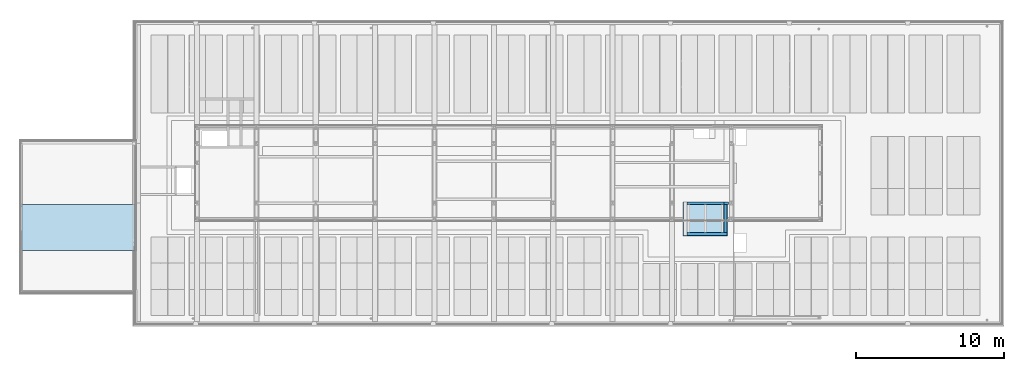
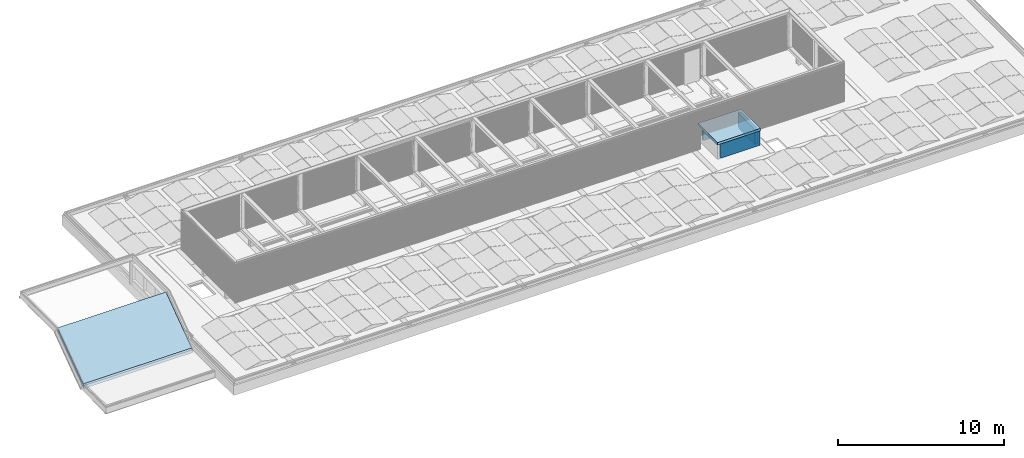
# One storey, part 16 of 63: 3 roofs, 3 walls.
"""IFC2X3 building model written with IfcOpenShell, lengths in millimetres."""

from ifc_helpers import new_model, entity, si_unit, converted_unit, derived_unit, money_unit, direction, frame, origin_with_axes, place, context, subcontext, project, spatial, faceted_brep, material, type_object, element, save


model = new_model("IFC2X3")

# Units and contexts
model_context = context("Model", 3, precision=0.01, world=origin_with_axes(), true_north=direction((0.0, 1.0)))
body_context = subcontext(model_context, "Body", "Model", "MODEL_VIEW")
ifc_project = project(units=[si_unit("LENGTHUNIT", "METRE", prefix="MILLI"), si_unit("AREAUNIT", "SQUARE_METRE"), si_unit("VOLUMEUNIT", "CUBIC_METRE"), converted_unit("PLANEANGLEUNIT", "DEGREE", entity("IfcPlaneAngleMeasure", 0.0174532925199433), si_unit("PLANEANGLEUNIT", "RADIAN"), dimensions=[0, 0, 0, 0, 0, 0, 0]), money_unit("EUR"), converted_unit("TIMEUNIT", "Year", entity("IfcTimeMeasure", 31557600.0), si_unit("TIMEUNIT", "SECOND"), dimensions=[0, 0, 1, 0, 0, 0, 0]), si_unit("MASSUNIT", "GRAM", prefix="KILO"), si_unit("THERMODYNAMICTEMPERATUREUNIT", "DEGREE_CELSIUS"), si_unit("LUMINOUSINTENSITYUNIT", "LUMEN"), si_unit("ENERGYUNIT", "JOULE", prefix="MEGA"), derived_unit("THERMALCONDUCTANCEUNIT", [(si_unit("POWERUNIT", "WATT"), 1), (si_unit("LENGTHUNIT", "METRE"), -1), (si_unit("THERMODYNAMICTEMPERATUREUNIT", "KELVIN"), -1)]), derived_unit("SPECIFICHEATCAPACITYUNIT", [(si_unit("ENERGYUNIT", "JOULE"), 1), (si_unit("MASSUNIT", "GRAM", prefix="KILO"), -1), (si_unit("THERMODYNAMICTEMPERATUREUNIT", "KELVIN"), -1)]), derived_unit("MASSDENSITYUNIT", [(si_unit("MASSUNIT", "GRAM", prefix="KILO"), 1), (si_unit("VOLUMEUNIT", "CUBIC_METRE"), -1)])], contexts=[model_context])

# Site, building, storey
site_placement = place(None, origin_with_axes())
site = spatial("IfcSite", under=ifc_project, at=site_placement, Name="<site naam>", CompositionType="ELEMENT")
building_placement = place(site_placement, origin_with_axes())
building = spatial("IfcBuilding", under=site, at=building_placement, Name="<Naam gebouw>", CompositionType="ELEMENT")
storey_placement = place(building_placement, frame((0.0, 0.0, 12770.0), z_axis=(0.0, 0.0, 1.0), x_axis=(1.0, 0.0, 0.0)))
storey = spatial("IfcBuildingStorey", under=building, at=storey_placement, Name="04 4e verdieping", CompositionType="ELEMENT", Elevation=12770.0)

# Walls
ifc_material_1 = material(Name="kalkzandsteen")
wall_type_1 = type_object("IfcWallType", Name="kalkzandsteen 150", PredefinedType="NOTDEFINED")
wall_1_placement = place(storey_placement, frame((51500.00000000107, 7904.999998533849, -70.00000000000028), z_axis=(0.0, 0.0, 1.0), x_axis=(-1.0, 0.0, 0.0)))
element("IfcWall", 1, at=wall_1_placement, inside=storey, type_object=wall_type_1, material=ifc_material_1, Name="22_Binnenwand_kalkzandsteen", context=body_context, shape_type="Brep", body=[
    faceted_brep([(2500.0, -150.0000000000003, 1102.518267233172), (0.0, -150.0000000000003, 1102.518267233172), (0.0, -150.0000000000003, 70.00000000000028), (-213.9999999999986, -150.0000000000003, 70.00000000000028), (-314.0000000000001, -150.0000000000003, 70.00000000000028), (-314.0000000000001, -150.0000000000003, 0.0), (2500.0, -150.0000000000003, 0.0), (2500.0, -150.0000000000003, 70.00000000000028), (0.0, 0.0, 1099.900007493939), (2500.0, 0.0, 1099.900007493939), (0.0, 0.0, 70.00000000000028), (-213.9999999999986, 0.0, 70.00000000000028), (-314.0000000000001, 0.0, 70.00000000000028), (-314.0000000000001, 0.0, 0.0), (2500.0, 0.0, 0.0), (2500.0, 0.0, 70.00000000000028)], [[[0, 1, 2, 3, 4, 5, 6, 7]], [[8, 1, 0, 9]], [[1, 8, 10, 2]], [[3, 2, 10, 11]], [[11, 12, 4, 3]], [[4, 12, 13, 5]], [[14, 6, 5, 13]], [[9, 0, 7, 6, 14, 15]], [[8, 9, 15, 14, 13, 12, 11, 10]]]),
])
wall_type_2 = type_object("IfcWallType", Name="kalkzandsteen 214", PredefinedType="NOTDEFINED")
wall_2_placement = place(storey_placement, frame((49000.00000000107, 6004.99999853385, -70.00000000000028), z_axis=(0.0, 0.0, 1.0), x_axis=(1.0, 0.0, 0.0)))
element("IfcWall", 2, at=wall_2_placement, inside=storey, type_object=wall_type_2, material=ifc_material_1, Name="22_Binnenwand_kalkzandsteen", context=body_context, shape_type="Brep", body=[
    faceted_brep([(0.0, 0.0, 1066.735384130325), (1246.999898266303, 0.0, 1066.735384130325), (1246.999898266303, 0.0, 1001.725748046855), (1170.99980395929, 0.0, 1001.725748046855), (1170.999788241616, 0.0, 986.7229140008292), (1331.000008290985, 0.0, 986.7229140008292), (1330.999992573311, 0.0, 1001.725748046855), (1254.999898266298, 0.0, 1001.725748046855), (1254.999898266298, 0.0, 1066.735384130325), (2713.999999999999, 0.0, 1066.735384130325), (2713.999999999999, 0.0, 0.0), (0.0, 0.0, 0.0), (2713.999999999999, -213.9999999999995, 1063.000000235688), (1254.999898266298, -0.0243671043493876, 1066.734958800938), (1246.999898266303, -0.0243671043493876, 1066.734958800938), (0.0, -213.9999999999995, 1063.000000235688), (1246.999898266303, -0.0243671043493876, 1001.725322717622), (1170.99980395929, -0.0243671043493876, 1001.725322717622), (1170.999788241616, -0.0243671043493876, 986.722488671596), (1331.000008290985, -0.0243671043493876, 986.722488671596), (1330.999992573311, -0.0243671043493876, 1001.725322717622), (1254.999898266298, -0.0243671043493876, 1001.725322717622), (2713.999999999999, -213.9999999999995, 0.0), (0.0, -214.0000000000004, 0.0)], [[[0, 1, 2, 3, 4, 5, 6, 7, 8, 9, 10, 11]], [[12, 9, 8, 13, 14, 1, 0, 15]], [[1, 14, 16, 2]], [[16, 17, 3, 2]], [[17, 18, 4, 3]], [[18, 19, 5, 4]], [[19, 20, 6, 5]], [[20, 21, 7, 6]], [[13, 8, 7, 21]], [[9, 12, 22, 10]], [[23, 11, 10, 22]], [[15, 0, 11, 23]], [[14, 13, 21, 20, 19, 18, 17, 16]], [[12, 15, 23, 22]]]),
])
wall_3_placement = place(storey_placement, frame((51500.00000000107, 6004.99999853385, -70.00000000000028), z_axis=(0.0, 0.0, 1.0), x_axis=(0.0, 1.0, 0.0)))
element("IfcWall", 3, at=wall_3_placement, inside=storey, type_object=wall_type_2, material=ifc_material_1, Name="22_Binnenwand_kalkzandsteen", context=body_context, shape_type="Brep", body=[
    faceted_brep([(780.1132328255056, 0.0, 1080.352311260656), (780.1132328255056, -213.9999999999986, 1080.352311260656), (785.5551564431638, -213.9999999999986, 1072.906391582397), (785.5551564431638, 0.0, 1072.906391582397), (0.0, -213.9999999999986, 1066.735384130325), (0.0, 0.0, 1066.735384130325), (2050.0, -213.9999999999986, 1102.518267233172), (781.1473080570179, -213.9999999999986, 1080.370361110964), (786.041487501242, -213.9999999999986, 1073.379405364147), (792.6291667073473, -213.9999999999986, 1064.639772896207), (794.9999038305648, -213.9999999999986, 1053.955284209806), (792.6291690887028, -213.9999999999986, 1043.270795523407), (786.0414898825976, -213.9999999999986, 1034.531163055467), (780.1163846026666, -213.9999999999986, 1026.067609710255), (777.9999062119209, -213.9999999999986, 1015.955284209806), (780.1163846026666, -213.9999999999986, 1005.842958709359), (786.0414898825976, -213.9999999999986, 997.3794053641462), (792.6291690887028, -213.9999999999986, 988.6397728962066), (794.9999062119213, -213.9999999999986, 977.9552842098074), (792.6291714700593, -213.9999999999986, 967.2707955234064), (786.0414922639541, -213.9999999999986, 958.5311630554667), (780.1163869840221, -213.9999999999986, 950.0676097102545), (777.9999085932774, -213.9999999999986, 939.9552842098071), (780.1163869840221, -213.9999999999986, 929.842958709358), (786.0414922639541, -213.9999999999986, 921.3794053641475), (792.6291714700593, -213.9999999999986, 912.6397728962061), (794.9999085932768, -213.9999999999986, 901.9552842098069), (792.6291738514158, -213.9999999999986, 891.2707955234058), (786.0414946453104, -213.9999999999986, 882.5311630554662), (780.1163893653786, -213.9999999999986, 874.0676097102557), (777.9999109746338, -213.9999999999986, 863.9552842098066), (780.1163893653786, -213.9999999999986, 853.8429587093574), (786.0414946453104, -213.9999999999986, 845.379405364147), (792.6291738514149, -213.9999999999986, 836.6397728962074), (794.9999109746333, -213.9999999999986, 825.9552842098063), (792.6291762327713, -213.9999999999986, 815.2707955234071), (786.0414970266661, -213.9999999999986, 806.5311630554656), (780.1163917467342, -213.9999999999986, 798.0676097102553), (777.9999133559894, -213.9999999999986, 787.9552842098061), (780.1163917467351, -213.9999999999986, 777.8429587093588), (786.0414970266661, -213.9999999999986, 769.3794053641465), (792.6291762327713, -213.9999999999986, 760.6397728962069), (794.9999133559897, -213.9999999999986, 749.9552842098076), (792.6291762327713, -213.9999999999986, 739.2707955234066), (786.0414970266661, -213.9999999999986, 730.531163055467), (780.1163917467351, -213.9999999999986, 722.0676097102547), (777.9999133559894, -213.9999999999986, 711.9552842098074), (780.1163917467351, -213.9999999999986, 701.8429587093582), (786.0414970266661, -213.9999999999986, 693.3794053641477), (792.6291762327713, -213.9999999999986, 684.6397728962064), (794.9999133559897, -213.9999999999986, 673.9552842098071), (792.6291786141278, -213.9999999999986, 663.270795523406), (786.0414994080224, -213.9999999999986, 654.5311630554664), (780.1163941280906, -213.9999999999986, 646.067609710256), (777.9999157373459, -213.9999999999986, 635.9552842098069), (780.1163941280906, -213.9999999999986, 625.8429587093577), (786.0414994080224, -213.9999999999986, 617.3794053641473), (792.6291786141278, -213.9999999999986, 608.6397728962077), (794.9999157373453, -213.9999999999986, 597.9552842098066), (792.6291809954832, -213.9999999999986, 587.2707955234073), (786.0415017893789, -213.9999999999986, 578.5311630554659), (780.1163965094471, -213.9999999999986, 570.0676097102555), (777.9999181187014, -213.9999999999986, 559.9552842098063), (780.1163965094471, -213.9999999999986, 549.842958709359), (786.0415017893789, -213.9999999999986, 541.3794053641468), (792.6291809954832, -213.9999999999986, 532.6397728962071), (794.9999181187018, -213.9999999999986, 521.9552842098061), (792.6291833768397, -213.9999999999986, 511.2707955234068), (786.0415041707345, -213.9999999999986, 502.5311630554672), (780.1163988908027, -213.9999999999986, 494.067609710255), (777.9999205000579, -213.9999999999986, 483.9552842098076), (780.1163988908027, -213.9999999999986, 473.8429587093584), (786.0415041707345, -213.9999999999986, 465.3794053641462), (792.6291833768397, -213.9999999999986, 456.6397728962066), (794.9999205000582, -213.9999999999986, 445.9552842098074), (792.6291857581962, -213.9999999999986, 435.2707955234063), (786.0415065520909, -213.9999999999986, 426.5311630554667), (780.1164012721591, -213.9999999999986, 418.0676097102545), (777.9999228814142, -214.0000000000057, 407.9552842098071), (780.1164012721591, -213.9999999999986, 397.842958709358), (786.04150655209, -213.9999999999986, 389.3794053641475), (792.6291857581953, -213.9999999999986, 380.6397728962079), (794.9999228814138, -213.9999999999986, 369.9552842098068), (793.9999205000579, -213.9999999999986, 369.9552842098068), (791.7751199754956, -213.9999999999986, 380.3209698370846), (785.5551754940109, -213.9999999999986, 388.9063915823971), (779.2572815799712, -213.9999999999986, 397.5234938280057), (776.9999228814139, -214.0000000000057, 407.9552842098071), (779.2572815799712, -213.9999999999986, 418.3870745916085), (785.5551754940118, -213.9999999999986, 427.004176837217), (791.7751199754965, -213.9999999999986, 435.5895985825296), (793.9999181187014, -213.9999999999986, 445.9552842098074), (791.7751175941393, -213.9999999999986, 456.3209698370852), (785.5551731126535, -213.9999999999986, 464.9063915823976), (779.2572791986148, -213.9999999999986, 473.5234938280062), (776.9999205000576, -213.9999999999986, 483.9552842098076), (779.2572791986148, -213.9999999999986, 494.3870745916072), (785.5551731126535, -213.9999999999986, 503.0041768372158), (791.7751175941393, -213.9999999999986, 511.5895985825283), (793.9999157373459, -213.9999999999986, 521.9552842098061), (791.7751152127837, -213.9999999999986, 532.3209698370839), (785.5551707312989, -213.9999999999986, 540.9063915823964), (779.2572768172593, -213.9999999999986, 549.5234938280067), (776.999918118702, -213.9999999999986, 559.9552842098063), (779.2572768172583, -213.9999999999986, 570.3870745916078), (785.555170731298, -213.9999999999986, 579.0041768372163), (791.7751152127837, -213.9999999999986, 587.5895985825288), (793.9999133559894, -213.9999999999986, 597.9552842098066), (791.7751128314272, -213.9999999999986, 608.3209698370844), (785.5551683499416, -213.9999999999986, 616.9063915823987), (779.2572744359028, -213.9999999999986, 625.5234938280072), (776.9999157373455, -213.9999999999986, 635.9552842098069), (779.2572744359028, -213.9999999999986, 646.3870745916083), (785.5551683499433, -213.9999999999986, 655.0041768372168), (791.7751128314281, -213.9999999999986, 663.5895985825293), (793.9999109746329, -213.9999999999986, 673.9552842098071), (791.7751104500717, -213.9999999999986, 684.3209698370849), (785.5551659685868, -213.9999999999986, 692.9063915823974), (779.2572720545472, -213.9999999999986, 701.5234938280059), (776.9999133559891, -213.9999999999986, 711.9552842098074), (779.2572720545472, -213.9999999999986, 722.387074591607), (785.5551659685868, -213.9999999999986, 731.0041768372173), (791.7751104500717, -213.9999999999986, 739.5895985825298), (793.9999109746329, -213.9999999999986, 749.9552842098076), (791.7751104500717, -213.9999999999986, 760.3209698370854), (785.555165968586, -213.9999999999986, 768.9063915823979), (779.2572720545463, -213.9999999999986, 777.5234938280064), (776.99991335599, -213.9999999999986, 787.9552842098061), (779.2572720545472, -213.9999999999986, 798.3870745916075), (785.5551659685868, -213.9999999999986, 807.004176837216), (791.7751104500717, -213.9999999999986, 815.5895985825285), (793.9999085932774, -213.9999999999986, 825.9552842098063), (791.7751080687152, -213.9999999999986, 836.3209698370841), (785.5551635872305, -213.9999999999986, 844.9063915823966), (779.2572696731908, -213.9999999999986, 853.5234938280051), (776.9999109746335, -213.9999999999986, 863.9552842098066), (779.2572696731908, -213.9999999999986, 874.387074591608), (785.5551635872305, -213.9999999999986, 883.0041768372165), (791.7751080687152, -213.9999999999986, 891.5895985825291), (793.9999062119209, -213.9999999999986, 901.9552842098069), (791.7751056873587, -213.9999999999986, 912.3209698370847), (785.5551612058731, -213.9999999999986, 920.9063915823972), (779.2572672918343, -213.9999999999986, 929.5234938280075), (776.999908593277, -213.9999999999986, 939.9552842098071), (779.2572672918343, -213.9999999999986, 950.3870745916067), (785.5551612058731, -213.9999999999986, 959.0041768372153), (791.7751056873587, -213.9999999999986, 967.5895985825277), (793.9999038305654, -213.9999999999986, 977.9552842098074), (791.7751033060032, -213.9999999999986, 988.3209698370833), (785.5551588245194, -213.9999999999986, 996.9063915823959), (779.2572649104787, -213.9999999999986, 1005.523493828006), (776.9999062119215, -213.9999999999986, 1015.955284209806), (779.2572649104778, -213.9999999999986, 1026.387074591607), (785.5551588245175, -213.9999999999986, 1035.004176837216), (791.7751033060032, -213.9999999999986, 1043.589598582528), (793.999901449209, -213.9999999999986, 1053.955284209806), (791.7751009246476, -213.9999999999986, 1064.320969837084), (0.0, -213.9999999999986, 0.0), (1900.0, -213.9999999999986, 0.0), (1900.0, -213.9999999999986, 70.00000000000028), (2050.0, -213.9999999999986, 70.00000000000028), (791.7751009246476, 0.0, 1064.320969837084), (781.1473080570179, 0.0, 1080.370361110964), (2050.0, 0.0, 1102.518267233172), (2050.0, 0.0, 70.00000000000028), (1900.0, 0.0, 70.00000000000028), (1900.0, 0.0, 0.0), (0.0, 0.0, 0.0), (793.999901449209, 0.0, 1053.955284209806), (791.7751033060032, 0.0, 1043.589598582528), (785.5551588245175, 0.0, 1035.004176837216), (779.2572649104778, 0.0, 1026.387074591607), (776.9999062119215, 0.0, 1015.955284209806), (779.2572649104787, 0.0, 1005.523493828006), (785.5551588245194, 0.0, 996.9063915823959), (791.7751033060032, 0.0, 988.3209698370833), (793.9999038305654, 0.0, 977.9552842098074), (791.7751056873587, 0.0, 967.5895985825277), (785.5551612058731, 0.0, 959.0041768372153), (779.2572672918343, 0.0, 950.3870745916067), (776.999908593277, 0.0, 939.9552842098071), (779.2572672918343, 0.0, 929.5234938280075), (785.5551612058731, 0.0, 920.9063915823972), (791.7751056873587, 0.0, 912.3209698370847), (793.9999062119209, 0.0, 901.9552842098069), (791.7751080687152, 0.0, 891.5895985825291), (785.5551635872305, 0.0, 883.0041768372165), (779.2572696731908, 0.0, 874.387074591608), (776.9999109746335, 0.0, 863.9552842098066), (779.2572696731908, 0.0, 853.5234938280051), (785.5551635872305, 0.0, 844.9063915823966), (791.7751080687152, 0.0, 836.3209698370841), (793.9999085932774, 0.0, 825.9552842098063), (791.7751104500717, 0.0, 815.5895985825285), (785.5551659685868, 0.0, 807.004176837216), (779.2572720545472, 0.0, 798.3870745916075), (776.99991335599, 0.0, 787.9552842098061), (779.2572720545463, 0.0, 777.5234938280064), (785.555165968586, 0.0, 768.9063915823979), (791.7751104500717, 0.0, 760.3209698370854), (793.9999109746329, 0.0, 749.9552842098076), (791.7751104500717, 0.0, 739.5895985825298), (785.5551659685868, 0.0, 731.0041768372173), (779.2572720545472, 0.0, 722.387074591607), (776.9999133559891, 0.0, 711.9552842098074), (779.2572720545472, 0.0, 701.5234938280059), (785.5551659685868, 0.0, 692.9063915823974), (791.7751104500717, 0.0, 684.3209698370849), (793.9999109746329, 0.0, 673.9552842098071), (791.7751128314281, 0.0, 663.5895985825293), (785.5551683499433, 0.0, 655.0041768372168), (779.2572744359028, 0.0, 646.3870745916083), (776.9999157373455, 0.0, 635.9552842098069), (779.2572744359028, 0.0, 625.5234938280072), (785.5551683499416, 0.0, 616.9063915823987), (791.7751128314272, 0.0, 608.3209698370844), (793.9999133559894, 0.0, 597.9552842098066), (791.7751152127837, 0.0, 587.5895985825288), (785.555170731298, 0.0, 579.0041768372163), (779.2572768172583, 0.0, 570.3870745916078), (776.999918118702, 0.0, 559.9552842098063), (779.2572768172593, 0.0, 549.5234938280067), (785.5551707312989, 0.0, 540.9063915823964), (791.7751152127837, 0.0, 532.3209698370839), (793.9999157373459, 0.0, 521.9552842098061), (791.7751175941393, 0.0, 511.5895985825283), (785.5551731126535, 0.0, 503.0041768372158), (779.2572791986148, 0.0, 494.3870745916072), (776.9999205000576, 0.0, 483.9552842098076), (779.2572791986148, 0.0, 473.5234938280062), (785.5551731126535, 0.0, 464.9063915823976), (791.7751175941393, 0.0, 456.3209698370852), (793.9999181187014, 0.0, 445.9552842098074), (791.7751199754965, 0.0, 435.5895985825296), (785.5551754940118, 0.0, 427.004176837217), (779.2572815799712, 0.0, 418.3870745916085), (776.9999228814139, 0.0, 407.9552842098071), (779.2572815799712, 0.0, 397.5234938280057), (785.5551754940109, 0.0, 388.9063915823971), (791.7751199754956, 0.0, 380.3209698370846), (793.9999205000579, 0.0, 369.9552842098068), (794.9999228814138, 0.0, 369.9552842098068), (792.6291857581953, 0.0, 380.6397728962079), (786.04150655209, 0.0, 389.3794053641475), (780.1164012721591, 0.0, 397.842958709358), (777.9999228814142, 0.0, 407.9552842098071), (780.1164012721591, 0.0, 418.0676097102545), (786.0415065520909, 0.0, 426.5311630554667), (792.6291857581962, 0.0, 435.2707955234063), (794.9999205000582, 0.0, 445.9552842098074), (792.6291833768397, 0.0, 456.6397728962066), (786.0415041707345, 0.0, 465.3794053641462), (780.1163988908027, 0.0, 473.8429587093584), (777.9999205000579, 0.0, 483.9552842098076), (780.1163988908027, 0.0, 494.067609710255), (786.0415041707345, 0.0, 502.5311630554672), (792.6291833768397, 0.0, 511.2707955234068), (794.9999181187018, 0.0, 521.9552842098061), (792.6291809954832, 0.0, 532.6397728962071), (786.0415017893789, 0.0, 541.3794053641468), (780.1163965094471, 0.0, 549.842958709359), (777.9999181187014, 0.0, 559.9552842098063), (780.1163965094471, 0.0, 570.0676097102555), (786.0415017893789, 0.0, 578.5311630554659), (792.6291809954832, 0.0, 587.2707955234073), (794.9999157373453, 0.0, 597.9552842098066), (792.6291786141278, 0.0, 608.6397728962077), (786.0414994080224, 0.0, 617.3794053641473), (780.1163941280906, 0.0, 625.8429587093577), (777.9999157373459, 0.0, 635.9552842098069), (780.1163941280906, 0.0, 646.067609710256), (786.0414994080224, 0.0, 654.5311630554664), (792.6291786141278, 0.0, 663.270795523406), (794.9999133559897, 0.0, 673.9552842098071), (792.6291762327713, 0.0, 684.6397728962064), (786.0414970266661, 0.0, 693.3794053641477), (780.1163917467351, 0.0, 701.8429587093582), (777.9999133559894, 0.0, 711.9552842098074), (780.1163917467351, 0.0, 722.0676097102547), (786.0414970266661, 0.0, 730.531163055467), (792.6291762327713, 0.0, 739.2707955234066), (794.9999133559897, 0.0, 749.9552842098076), (792.6291762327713, 0.0, 760.6397728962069), (786.0414970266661, 0.0, 769.3794053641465), (780.1163917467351, 0.0, 777.8429587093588), (777.9999133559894, 0.0, 787.9552842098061), (780.1163917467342, 0.0, 798.0676097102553), (786.0414970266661, 0.0, 806.5311630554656), (792.6291762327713, 0.0, 815.2707955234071), (794.9999109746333, 0.0, 825.9552842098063), (792.6291738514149, 0.0, 836.6397728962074), (786.0414946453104, 0.0, 845.379405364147), (780.1163893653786, 0.0, 853.8429587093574), (777.9999109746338, 0.0, 863.9552842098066), (780.1163893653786, 0.0, 874.0676097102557), (786.0414946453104, 0.0, 882.5311630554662), (792.6291738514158, 0.0, 891.2707955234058), (794.9999085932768, 0.0, 901.9552842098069), (792.6291714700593, 0.0, 912.6397728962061), (786.0414922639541, 0.0, 921.3794053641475), (780.1163869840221, 0.0, 929.842958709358), (777.9999085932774, 0.0, 939.9552842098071), (780.1163869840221, 0.0, 950.0676097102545), (786.0414922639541, 0.0, 958.5311630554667), (792.6291714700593, 0.0, 967.2707955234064), (794.9999062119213, 0.0, 977.9552842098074), (792.6291690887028, 0.0, 988.6397728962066), (786.0414898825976, 0.0, 997.3794053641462), (780.1163846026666, 0.0, 1005.842958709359), (777.9999062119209, 0.0, 1015.955284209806), (780.1163846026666, 0.0, 1026.067609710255), (786.0414898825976, 0.0, 1034.531163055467), (792.6291690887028, 0.0, 1043.270795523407), (794.9999038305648, 0.0, 1053.955284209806), (792.6291667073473, 0.0, 1064.639772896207), (786.041487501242, 0.0, 1073.379405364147)], [[[0, 1, 2, 3]], [[4, 1, 0, 5]], [[6, 7, 8, 9, 10, 11, 12, 13, 14, 15, 16, 17, 18, 19, 20, 21, 22, 23, 24, 25, 26, 27, 28, 29, 30, 31, 32, 33, 34, 35, 36, 37, 38, 39, 40, 41, 42, 43, 44, 45, 46, 47, 48, 49, 50, 51, 52, 53, 54, 55, 56, 57, 58, 59, 60, 61, 62, 63, 64, 65, 66, 67, 68, 69, 70, 71, 72, 73, 74, 75, 76, 77, 78, 79, 80, 81, 82, 83, 84, 85, 86, 87, 88, 89, 90, 91, 92, 93, 94, 95, 96, 97, 98, 99, 100, 101, 102, 103, 104, 105, 106, 107, 108, 109, 110, 111, 112, 113, 114, 115, 116, 117, 118, 119, 120, 121, 122, 123, 124, 125, 126, 127, 128, 129, 130, 131, 132, 133, 134, 135, 136, 137, 138, 139, 140, 141, 142, 143, 144, 145, 146, 147, 148, 149, 150, 151, 152, 153, 154, 155, 156, 2, 1, 4, 157, 158, 159, 160]], [[161, 3, 2, 156]], [[162, 163, 164, 165, 166, 167, 5, 0, 3, 161, 168, 169, 170, 171, 172, 173, 174, 175, 176, 177, 178, 179, 180, 181, 182, 183, 184, 185, 186, 187, 188, 189, 190, 191, 192, 193, 194, 195, 196, 197, 198, 199, 200, 201, 202, 203, 204, 205, 206, 207, 208, 209, 210, 211, 212, 213, 214, 215, 216, 217, 218, 219, 220, 221, 222, 223, 224, 225, 226, 227, 228, 229, 230, 231, 232, 233, 234, 235, 236, 237, 238, 239, 240, 241, 242, 243, 244, 245, 246, 247, 248, 249, 250, 251, 252, 253, 254, 255, 256, 257, 258, 259, 260, 261, 262, 263, 264, 265, 266, 267, 268, 269, 270, 271, 272, 273, 274, 275, 276, 277, 278, 279, 280, 281, 282, 283, 284, 285, 286, 287, 288, 289, 290, 291, 292, 293, 294, 295, 296, 297, 298, 299, 300, 301, 302, 303, 304, 305, 306, 307, 308, 309, 310, 311, 312, 313, 314, 315]], [[4, 5, 167, 157]], [[7, 6, 163, 162]], [[7, 162, 315, 8]], [[315, 314, 9, 8]], [[9, 314, 313, 10]], [[312, 11, 10, 313]], [[312, 311, 12, 11]], [[311, 310, 13, 12]], [[310, 309, 14, 13]], [[308, 15, 14, 309]], [[308, 307, 16, 15]], [[307, 306, 17, 16]], [[17, 306, 305, 18]], [[304, 19, 18, 305]], [[304, 303, 20, 19]], [[303, 302, 21, 20]], [[302, 301, 22, 21]], [[300, 23, 22, 301]], [[300, 299, 24, 23]], [[299, 298, 25, 24]], [[25, 298, 297, 26]], [[296, 27, 26, 297]], [[296, 295, 28, 27]], [[295, 294, 29, 28]], [[294, 293, 30, 29]], [[292, 31, 30, 293]], [[292, 291, 32, 31]], [[291, 290, 33, 32]], [[33, 290, 289, 34]], [[288, 35, 34, 289]], [[288, 287, 36, 35]], [[287, 286, 37, 36]], [[286, 285, 38, 37]], [[284, 39, 38, 285]], [[284, 283, 40, 39]], [[283, 282, 41, 40]], [[41, 282, 281, 42]], [[280, 43, 42, 281]], [[280, 279, 44, 43]], [[279, 278, 45, 44]], [[278, 277, 46, 45]], [[276, 47, 46, 277]], [[276, 275, 48, 47]], [[275, 274, 49, 48]], [[49, 274, 273, 50]], [[272, 51, 50, 273]], [[272, 271, 52, 51]], [[271, 270, 53, 52]], [[270, 269, 54, 53]], [[268, 55, 54, 269]], [[268, 267, 56, 55]], [[267, 266, 57, 56]], [[57, 266, 265, 58]], [[264, 59, 58, 265]], [[264, 263, 60, 59]], [[263, 262, 61, 60]], [[262, 261, 62, 61]], [[260, 63, 62, 261]], [[260, 259, 64, 63]], [[259, 258, 65, 64]], [[65, 258, 257, 66]], [[256, 67, 66, 257]], [[256, 255, 68, 67]], [[255, 254, 69, 68]], [[254, 253, 70, 69]], [[252, 71, 70, 253]], [[252, 251, 72, 71]], [[251, 250, 73, 72]], [[73, 250, 249, 74]], [[248, 75, 74, 249]], [[248, 247, 76, 75]], [[247, 246, 77, 76]], [[246, 245, 78, 77]], [[244, 79, 78, 245]], [[244, 243, 80, 79]], [[243, 242, 81, 80]], [[242, 241, 82, 81]], [[241, 240, 83, 82]], [[240, 239, 84, 83]], [[239, 238, 85, 84]], [[238, 237, 86, 85]], [[86, 237, 236, 87]], [[236, 235, 88, 87]], [[235, 234, 89, 88]], [[234, 233, 90, 89]], [[90, 233, 232, 91]], [[232, 231, 92, 91]], [[231, 230, 93, 92]], [[230, 229, 94, 93]], [[94, 229, 228, 95]], [[228, 227, 96, 95]], [[227, 226, 97, 96]], [[226, 225, 98, 97]], [[98, 225, 224, 99]], [[224, 223, 100, 99]], [[223, 222, 101, 100]], [[222, 221, 102, 101]], [[102, 221, 220, 103]], [[220, 219, 104, 103]], [[219, 218, 105, 104]], [[218, 217, 106, 105]], [[106, 217, 216, 107]], [[216, 215, 108, 107]], [[215, 214, 109, 108]], [[214, 213, 110, 109]], [[110, 213, 212, 111]], [[212, 211, 112, 111]], [[211, 210, 113, 112]], [[210, 209, 114, 113]], [[114, 209, 208, 115]], [[208, 207, 116, 115]], [[207, 206, 117, 116]], [[206, 205, 118, 117]], [[118, 205, 204, 119]], [[204, 203, 120, 119]], [[203, 202, 121, 120]], [[202, 201, 122, 121]], [[122, 201, 200, 123]], [[200, 199, 124, 123]], [[199, 198, 125, 124]], [[198, 197, 126, 125]], [[126, 197, 196, 127]], [[196, 195, 128, 127]], [[195, 194, 129, 128]], [[194, 193, 130, 129]], [[130, 193, 192, 131]], [[192, 191, 132, 131]], [[191, 190, 133, 132]], [[190, 189, 134, 133]], [[134, 189, 188, 135]], [[188, 187, 136, 135]], [[187, 186, 137, 136]], [[186, 185, 138, 137]], [[138, 185, 184, 139]], [[184, 183, 140, 139]], [[183, 182, 141, 140]], [[182, 181, 142, 141]], [[142, 181, 180, 143]], [[180, 179, 144, 143]], [[179, 178, 145, 144]], [[178, 177, 146, 145]], [[146, 177, 176, 147]], [[176, 175, 148, 147]], [[175, 174, 149, 148]], [[174, 173, 150, 149]], [[150, 173, 172, 151]], [[172, 171, 152, 151]], [[171, 170, 153, 152]], [[170, 169, 154, 153]], [[154, 169, 168, 155]], [[168, 161, 156, 155]], [[157, 167, 166, 158]], [[166, 165, 159, 158]], [[159, 165, 164, 160]], [[163, 6, 160, 164]]]),
])

# Roofs
ifc_material_2 = material(Name="beton_gewapend_prefab vloer")
roof_1_placement = place(storey_placement, frame((4000.000000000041, 7899.999999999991, 1539.999999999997), z_axis=(0.0, 0.0, 1.0), x_axis=(1.0, 0.0, 0.0)))
element("IfcRoof", 4, at=roof_1_placement, inside=storey, material=ifc_material_2, Name="27_Dak_beton_gewapend_prefab", ShapeType="NOTDEFINED", context=body_context, shape_type="Brep", body=[
    faceted_brep([(7803.45553184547, -3100.0, -2020.001251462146), (7803.45553184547, 0.0, 220.0000000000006), (196.544468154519, 0.0, 220.0000000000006), (196.544468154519, -3100.0, -2020.001251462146), (7803.455532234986, -3099.999999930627, -2240.001251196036), (7803.455532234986, 3.155591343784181e-07, 4.439986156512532e-07), (196.5444681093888, 3.155591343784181e-07, 4.439986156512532e-07), (196.5444681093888, -3099.999999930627, -2240.001251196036)], [[[0, 1, 2, 3]], [[1, 0, 4, 5]], [[2, 1, 5, 6]], [[3, 2, 6, 7]], [[0, 3, 7, 4]], [[5, 4, 7, 6]]]),
])
ifc_material_3 = material(Name="ALG - ISOLATIE")
roof_2_placement = place(storey_placement, frame((3955.915922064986, 7900.0, 1759.999999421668), z_axis=(0.0, 0.0, 1.0), x_axis=(1.0, 0.0, 0.0)))
element("IfcRoof", 5, at=roof_2_placement, inside=storey, material=ifc_material_3, Name="27_Dak_ALG", ShapeType="NOTDEFINED", context=body_context, shape_type="Brep", body=[
    faceted_brep([(7754.000002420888, -3099.999999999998, -2100.001251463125), (7754.000002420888, 0.0, 140.0000000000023), (246.0455230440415, 0.0, 140.0000000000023), (246.0455230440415, -3099.999999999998, -2100.001251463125), (7754.000002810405, -3099.999999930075, -2240.001251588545), (7754.000002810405, 3.15645287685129e-07, 5.213607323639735e-08), (246.0455226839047, 3.15645287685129e-07, 5.213607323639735e-08), (246.0455226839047, -3099.999999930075, -2240.001251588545)], [[[0, 1, 2, 3]], [[1, 0, 4, 5]], [[2, 1, 5, 6]], [[3, 2, 6, 7]], [[0, 3, 7, 4]], [[5, 4, 7, 6]]]),
])
ifc_material_4 = material(Name="hout C")
roof_3_placement = place(storey_placement, frame((48786.00000000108, 5790.999974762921, 992.9999996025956), z_axis=(0.0, 0.0, 1.0), x_axis=(1.0, 0.0, 0.0)))
element("IfcRoof", 6, at=roof_3_placement, inside=storey, material=ifc_material_4, Name="27_Dak_hout", ShapeType="NOTDEFINED", context=body_context, shape_type="Brep", body=[
    faceted_brep([(2964.000022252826, 2284.000025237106, 210.8673687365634), (-36.00000000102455, 2284.000025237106, 210.8673687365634), (-36.00000000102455, -20.00002529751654, 170.6508982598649), (2964.000022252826, -20.00002529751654, 170.6508982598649), (2964.000022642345, 2284.000025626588, 39.86736896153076), (-35.99999970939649, 2284.000025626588, 39.86736896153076), (-35.99999970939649, -20.00002556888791, -0.3491015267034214), (2964.000022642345, -20.00002556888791, -0.3491015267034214)], [[[0, 1, 2, 3]], [[1, 0, 4, 5]], [[2, 1, 5, 6]], [[3, 2, 6, 7]], [[0, 3, 7, 4]], [[5, 4, 7, 6]]]),
])

save(model, "model.ifc")
